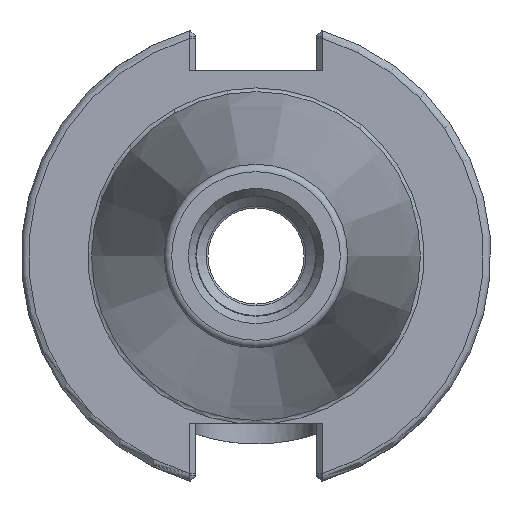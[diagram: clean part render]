
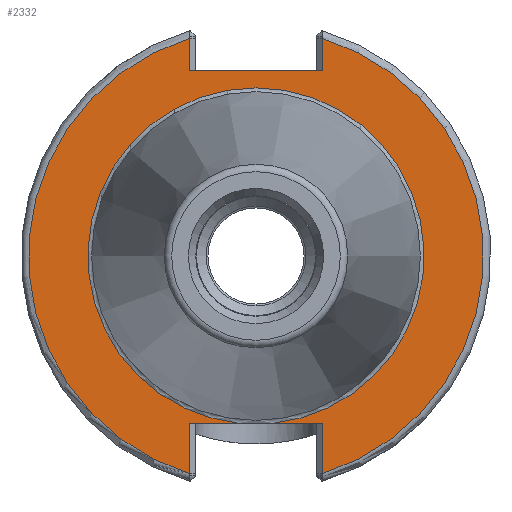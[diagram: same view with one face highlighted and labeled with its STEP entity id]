
A CAD part, left-side view. The second image highlights one B-rep face of the part: STEP entity #2332.
In plain terms, the highlighted planar face has unit normal (-1, 0, 0).
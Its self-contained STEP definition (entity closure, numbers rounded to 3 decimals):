
#166=LINE('',#3536,#323);
#186=LINE('',#3842,#343);
#188=LINE('',#3921,#345);
#189=LINE('',#3925,#346);
#190=LINE('',#3927,#347);
#191=LINE('',#3933,#348);
#192=LINE('',#3934,#349);
#323=VECTOR('',#2828,10.);
#343=VECTOR('',#2894,10.);
#345=VECTOR('',#2916,10.);
#346=VECTOR('',#2919,10.);
#347=VECTOR('',#2920,10.);
#348=VECTOR('',#2925,10.);
#349=VECTOR('',#2926,10.);
#477=PLANE('',#2585);
#550=FACE_OUTER_BOUND('',#698,.T.);
#698=EDGE_LOOP('',(#1710,#1711,#1712,#1713,#1714,#1715,#1716,#1717,#1718,
#1719,#1720));
#855=CIRCLE('',#2584,30.75);
#856=CIRCLE('',#2586,30.75);
#857=CIRCLE('',#2587,22.725);
#858=CIRCLE('',#2588,22.725);
#1019=VERTEX_POINT('',#3533);
#1020=VERTEX_POINT('',#3535);
#1051=VERTEX_POINT('',#3838);
#1059=VERTEX_POINT('',#3899);
#1061=VERTEX_POINT('',#3920);
#1062=VERTEX_POINT('',#3922);
#1063=VERTEX_POINT('',#3924);
#1064=VERTEX_POINT('',#3926);
#1065=VERTEX_POINT('',#3928);
#1066=VERTEX_POINT('',#3930);
#1067=VERTEX_POINT('',#3932);
#1255=EDGE_CURVE('',#1020,#1019,#166,.T.);
#1298=EDGE_CURVE('',#1020,#1051,#186,.T.);
#1310=EDGE_CURVE('',#1051,#1059,#855,.T.);
#1313=EDGE_CURVE('',#1061,#1019,#188,.T.);
#1314=EDGE_CURVE('',#1062,#1061,#856,.T.);
#1315=EDGE_CURVE('',#1063,#1062,#189,.T.);
#1316=EDGE_CURVE('',#1063,#1064,#190,.T.);
#1317=EDGE_CURVE('',#1064,#1065,#857,.T.);
#1318=EDGE_CURVE('',#1065,#1066,#858,.T.);
#1319=EDGE_CURVE('',#1066,#1067,#191,.T.);
#1320=EDGE_CURVE('',#1059,#1067,#192,.T.);
#1710=ORIENTED_EDGE('',*,*,#1298,.F.);
#1711=ORIENTED_EDGE('',*,*,#1255,.T.);
#1712=ORIENTED_EDGE('',*,*,#1313,.F.);
#1713=ORIENTED_EDGE('',*,*,#1314,.F.);
#1714=ORIENTED_EDGE('',*,*,#1315,.F.);
#1715=ORIENTED_EDGE('',*,*,#1316,.T.);
#1716=ORIENTED_EDGE('',*,*,#1317,.T.);
#1717=ORIENTED_EDGE('',*,*,#1318,.T.);
#1718=ORIENTED_EDGE('',*,*,#1319,.T.);
#1719=ORIENTED_EDGE('',*,*,#1320,.F.);
#1720=ORIENTED_EDGE('',*,*,#1310,.F.);
#2332=ADVANCED_FACE('',(#550),#477,.T.);
#2584=AXIS2_PLACEMENT_3D('',#3900,#2912,#2913);
#2585=AXIS2_PLACEMENT_3D('',#3919,#2914,#2915);
#2586=AXIS2_PLACEMENT_3D('',#3923,#2917,#2918);
#2587=AXIS2_PLACEMENT_3D('',#3929,#2921,#2922);
#2588=AXIS2_PLACEMENT_3D('',#3931,#2923,#2924);
#2828=DIRECTION('',(0.,1.,0.));
#2894=DIRECTION('',(0.,0.,1.));
#2912=DIRECTION('center_axis',(1.,0.,0.));
#2913=DIRECTION('ref_axis',(0.,0.,-1.));
#2914=DIRECTION('center_axis',(-1.,0.,0.));
#2915=DIRECTION('ref_axis',(0.,0.,1.));
#2916=DIRECTION('',(0.,0.,-1.));
#2917=DIRECTION('center_axis',(1.,0.,0.));
#2918=DIRECTION('ref_axis',(0.,0.,-1.));
#2919=DIRECTION('',(0.,0.,-1.));
#2920=DIRECTION('',(0.,-1.,0.));
#2921=DIRECTION('center_axis',(1.,0.,0.));
#2922=DIRECTION('ref_axis',(0.,0.,-1.));
#2923=DIRECTION('center_axis',(1.,0.,0.));
#2924=DIRECTION('ref_axis',(0.,0.,-1.));
#2925=DIRECTION('',(0.,-1.,0.));
#2926=DIRECTION('',(0.,0.,1.));
#3533=CARTESIAN_POINT('',(3.175,8.992,25.019));
#3535=CARTESIAN_POINT('',(3.175,-8.992,25.019));
#3536=CARTESIAN_POINT('',(3.175,19.471,25.019));
#3838=CARTESIAN_POINT('',(3.175,-8.992,29.406));
#3842=CARTESIAN_POINT('',(3.175,-8.992,12.51));
#3899=CARTESIAN_POINT('',(3.175,-8.991,-29.406));
#3900=CARTESIAN_POINT('Origin',(3.175,0.,0.));
#3919=CARTESIAN_POINT('Origin',(3.175,30.75,0.));
#3920=CARTESIAN_POINT('',(3.175,8.992,29.406));
#3921=CARTESIAN_POINT('',(3.175,8.992,17.51));
#3922=CARTESIAN_POINT('',(3.175,8.992,-29.406));
#3923=CARTESIAN_POINT('Origin',(3.175,0.,0.));
#3924=CARTESIAN_POINT('',(3.175,8.992,-22.606));
#3925=CARTESIAN_POINT('',(3.175,8.992,-11.303));
#3926=CARTESIAN_POINT('',(3.175,2.323,-22.606));
#3927=CARTESIAN_POINT('',(3.175,11.279,-22.606));
#3928=CARTESIAN_POINT('',(3.175,0.,22.725));
#3929=CARTESIAN_POINT('Origin',(3.175,0.,0.));
#3930=CARTESIAN_POINT('',(3.175,-2.323,-22.606));
#3931=CARTESIAN_POINT('Origin',(3.175,0.,0.));
#3932=CARTESIAN_POINT('',(3.175,-8.991,-22.606));
#3933=CARTESIAN_POINT('',(3.175,11.279,-22.606));
#3934=CARTESIAN_POINT('',(3.175,-8.991,-17.303));
